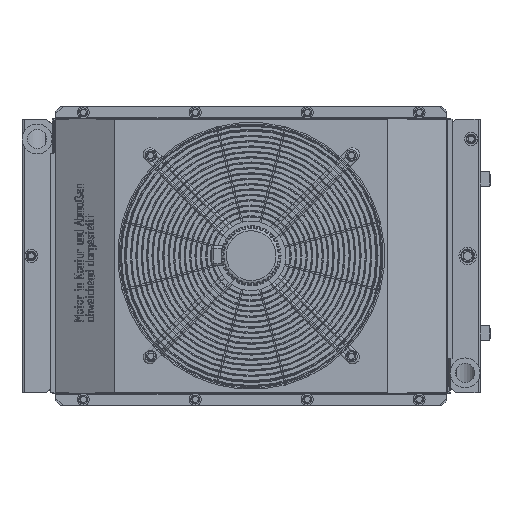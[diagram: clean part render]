
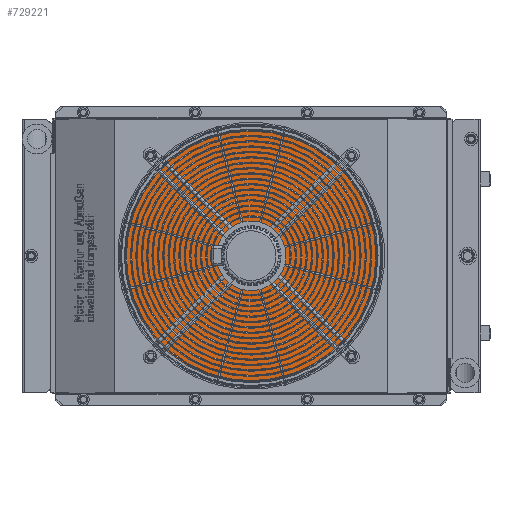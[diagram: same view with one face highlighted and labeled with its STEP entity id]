
A CAD part, top view. The second image highlights one B-rep face of the part: STEP entity #729221.
In plain terms, the highlighted planar face has unit normal (0, 0, 1).
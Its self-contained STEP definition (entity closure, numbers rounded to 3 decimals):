
#726891=CARTESIAN_POINT(' ',(394.247,541.99,47.));
#726892=VERTEX_POINT(' ',#726891);
#727246=CARTESIAN_POINT(' ',(-394.247,541.99,47.));
#727247=VERTEX_POINT(' ',#727246);
#727261=CARTESIAN_POINT(' ',(394.247,541.99,47.));
#727266=DIRECTION(' ',(-1.,0.,0.));
#727271=VECTOR(' ',#727266,1.);
#727276=LINE(' ',#727261,#727271);
#727281=EDGE_CURVE(' ',#726892,#727247,#727276,.T.);
#727416=CARTESIAN_POINT(' ',(394.247,541.99,47.));
#727421=DIRECTION(' ',(0.,-1.,0.));
#727426=VECTOR(' ',#727421,1.);
#727431=LINE(' ',#727416,#727426);
#727436=CARTESIAN_POINT(' ',(394.247,0.,47.));
#727437=VERTEX_POINT(' ',#727436);
#727441=EDGE_CURVE(' ',#726892,#727437,#727431,.T.);
#729006=CARTESIAN_POINT(' ',(-394.247,541.99,47.));
#729011=DIRECTION(' ',(0.,-1.,0.));
#729016=VECTOR(' ',#729011,1.);
#729021=LINE(' ',#729006,#729016);
#729026=CARTESIAN_POINT(' ',(-394.247,0.,47.));
#729027=VERTEX_POINT(' ',#729026);
#729031=EDGE_CURVE(' ',#727247,#729027,#729021,.T.);
#729141=CARTESIAN_POINT(' ',(-394.247,0.,47.));
#729146=DIRECTION(' ',(0.,0.,1.));
#729151=DIRECTION(' ',(1.,0.,0.));
#729156=AXIS2_PLACEMENT_3D(' ',#729141,#729146,#729151);
#729161=PLANE(' ',#729156);
#729166=ORIENTED_EDGE(' ',*,*,#727441,.F.);
#729171=ORIENTED_EDGE(' ',*,*,#727281,.T.);
#729176=ORIENTED_EDGE(' ',*,*,#729031,.T.);
#729181=CARTESIAN_POINT(' ',(394.247,0.,47.));
#729186=DIRECTION(' ',(-1.,0.,0.));
#729191=VECTOR(' ',#729186,1.);
#729196=LINE(' ',#729181,#729191);
#729201=EDGE_CURVE(' ',#727437,#729027,#729196,.T.);
#729206=ORIENTED_EDGE(' ',*,*,#729201,.F.);
#729211=EDGE_LOOP(' ',(#729166,#729171,#729176,#729206));
#729216=FACE_OUTER_BOUND(' ',#729211,.T.);
#729221=ADVANCED_FACE(' ',(#729216),#729161,.T.);
